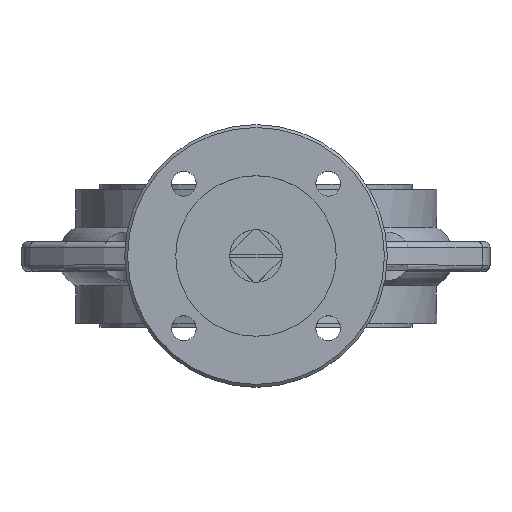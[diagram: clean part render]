
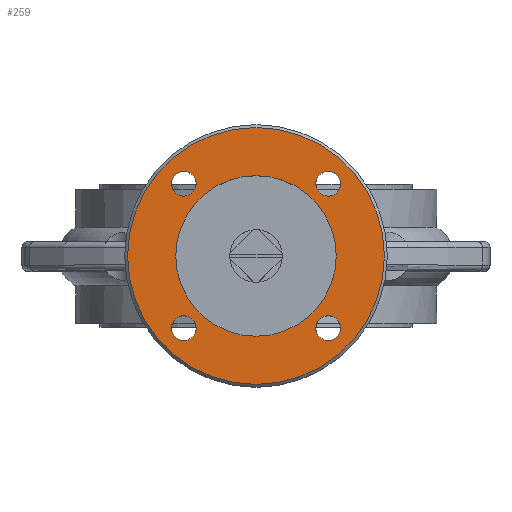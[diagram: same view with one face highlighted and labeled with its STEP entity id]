
A CAD part, top view. The second image highlights one B-rep face of the part: STEP entity #259.
In plain terms, the highlighted planar face has unit normal (0, 0, 1).
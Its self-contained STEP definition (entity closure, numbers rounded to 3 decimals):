
#259 = ADVANCED_FACE( '', ( #691, #692, #693, #694, #695, #696 ), #697, .T. );
#691 = FACE_BOUND( '', #1341, .T. );
#692 = FACE_OUTER_BOUND( '', #1342, .T. );
#693 = FACE_BOUND( '', #1343, .T. );
#694 = FACE_BOUND( '', #1344, .T. );
#695 = FACE_BOUND( '', #1345, .T. );
#696 = FACE_BOUND( '', #1346, .T. );
#697 = PLANE( '', #1347 );
#1341 = EDGE_LOOP( '', ( #3002 ) );
#1342 = EDGE_LOOP( '', ( #3003 ) );
#1343 = EDGE_LOOP( '', ( #3004 ) );
#1344 = EDGE_LOOP( '', ( #3005 ) );
#1345 = EDGE_LOOP( '', ( #3006 ) );
#1346 = EDGE_LOOP( '', ( #3007 ) );
#1347 = AXIS2_PLACEMENT_3D( '', #3008, #3009, #3010 );
#3002 = ORIENTED_EDGE( '', *, *, #4708, .T. );
#3003 = ORIENTED_EDGE( '', *, *, #4709, .T. );
#3004 = ORIENTED_EDGE( '', *, *, #4710, .T. );
#3005 = ORIENTED_EDGE( '', *, *, #4711, .T. );
#3006 = ORIENTED_EDGE( '', *, *, #4712, .T. );
#3007 = ORIENTED_EDGE( '', *, *, #4713, .T. );
#3008 = CARTESIAN_POINT( '', ( 0., -23., 132. ) );
#3009 = DIRECTION( '', ( 0., 0., 1. ) );
#3010 = DIRECTION( '', ( 1., 0., 0. ) );
#4708 = EDGE_CURVE( '', #5509, #5509, #5510, .T. );
#4709 = EDGE_CURVE( '', #5511, #5511, #5512, .T. );
#4710 = EDGE_CURVE( '', #5513, #5513, #5514, .T. );
#4711 = EDGE_CURVE( '', #5515, #5515, #5516, .T. );
#4712 = EDGE_CURVE( '', #5517, #5517, #5518, .T. );
#4713 = EDGE_CURVE( '', #5519, #5519, #5520, .T. );
#5509 = VERTEX_POINT( '', #6770 );
#5510 = CIRCLE( '', #6771, 27.5 );
#5511 = VERTEX_POINT( '', #6772 );
#5512 = CIRCLE( '', #6773, 44. );
#5513 = VERTEX_POINT( '', #6774 );
#5514 = CIRCLE( '', #6775, 4.25 );
#5515 = VERTEX_POINT( '', #6776 );
#5516 = CIRCLE( '', #6777, 4.25 );
#5517 = VERTEX_POINT( '', #6778 );
#5518 = CIRCLE( '', #6779, 4.25 );
#5519 = VERTEX_POINT( '', #6780 );
#5520 = CIRCLE( '', #6781, 4.25 );
#6770 = CARTESIAN_POINT( '', ( -27.5, -23., 132. ) );
#6771 = AXIS2_PLACEMENT_3D( '', #9068, #9069, #9070 );
#6772 = CARTESIAN_POINT( '', ( -44., -23., 132. ) );
#6773 = AXIS2_PLACEMENT_3D( '', #9071, #9072, #9073 );
#6774 = CARTESIAN_POINT( '', ( 28.999, 1.749, 132. ) );
#6775 = AXIS2_PLACEMENT_3D( '', #9074, #9075, #9076 );
#6776 = CARTESIAN_POINT( '', ( -20.499, 1.749, 132. ) );
#6777 = AXIS2_PLACEMENT_3D( '', #9077, #9078, #9079 );
#6778 = CARTESIAN_POINT( '', ( 28.999, -47.749, 132. ) );
#6779 = AXIS2_PLACEMENT_3D( '', #9080, #9081, #9082 );
#6780 = CARTESIAN_POINT( '', ( -20.499, -47.749, 132. ) );
#6781 = AXIS2_PLACEMENT_3D( '', #9083, #9084, #9085 );
#9068 = CARTESIAN_POINT( '', ( 0., -23., 132. ) );
#9069 = DIRECTION( '', ( 0., 0., -1. ) );
#9070 = DIRECTION( '', ( -1., 0., 0. ) );
#9071 = CARTESIAN_POINT( '', ( 0., -23., 132. ) );
#9072 = DIRECTION( '', ( 0., 0., 1. ) );
#9073 = DIRECTION( '', ( -1., 0., 0. ) );
#9074 = CARTESIAN_POINT( '', ( 24.749, 1.749, 132. ) );
#9075 = DIRECTION( '', ( 0., 0., -1. ) );
#9076 = DIRECTION( '', ( 1., 0., 0. ) );
#9077 = CARTESIAN_POINT( '', ( -24.749, 1.749, 132. ) );
#9078 = DIRECTION( '', ( 0., 0., -1. ) );
#9079 = DIRECTION( '', ( 1., 0., 0. ) );
#9080 = CARTESIAN_POINT( '', ( 24.749, -47.749, 132. ) );
#9081 = DIRECTION( '', ( 0., 0., -1. ) );
#9082 = DIRECTION( '', ( 1., 0., 0. ) );
#9083 = CARTESIAN_POINT( '', ( -24.749, -47.749, 132. ) );
#9084 = DIRECTION( '', ( 0., 0., -1. ) );
#9085 = DIRECTION( '', ( 1., 0., 0. ) );
